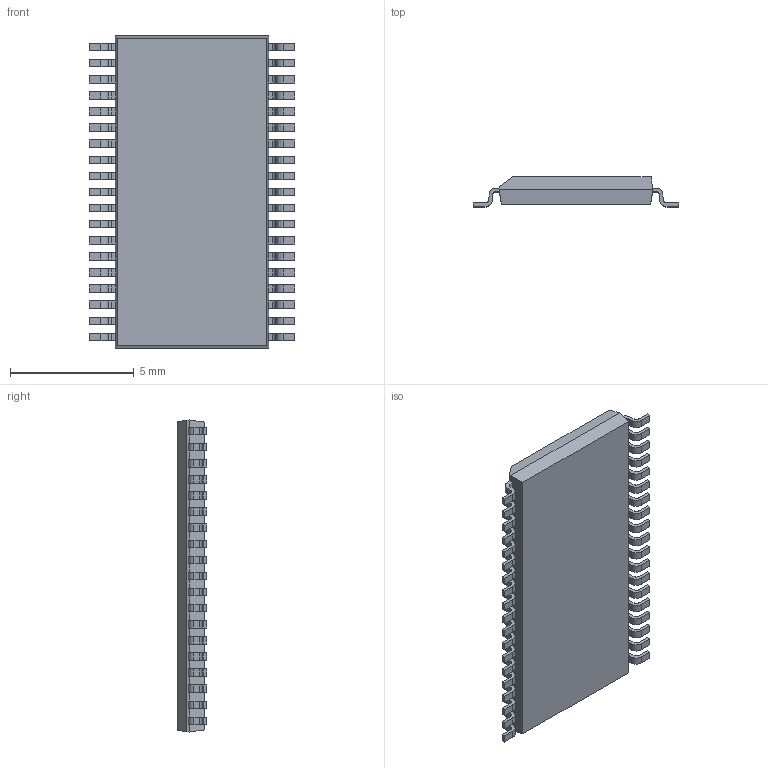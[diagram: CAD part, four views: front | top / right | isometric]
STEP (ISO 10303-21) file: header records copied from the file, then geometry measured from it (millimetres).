
FILE_DESCRIPTION (( 'STEP AP214' ), '1' );
FILE_NAME ('TSOP65P810X120-38_MO-153.DD-1.STEP', '2014-10-29T08:21:09', ( 'Tester2' ), ( '' ), 'SwSTEP 2.0', 'SolidWorks 2012', '' );
FILE_SCHEMA (( 'AUTOMOTIVE_DESIGN' ));
Length unit declared in the file: millimetre
Products named in the file (1): TSOP65P810X120-38_MO-153.DD-1
Bounding box: 8.3 x 1.2 x 12.6 mm (x, y, z)
Volume: 85.7 mm3; surface area: 239.4 mm2
Topology: 1 solids, 1 shells, 508 faces, 1511 edges, 1006 vertices
Faces by surface type: plane 354, cylinder 154
Entity records: 22472 total; most frequent: CARTESIAN_POINT 3026, ORIENTED_EDGE 3022, DIRECTION 2837, EDGE_CURVE 1511, VECTOR 1203, LINE 1203, VERTEX_POINT 1006, AXIS2_PLACEMENT_3D 817
